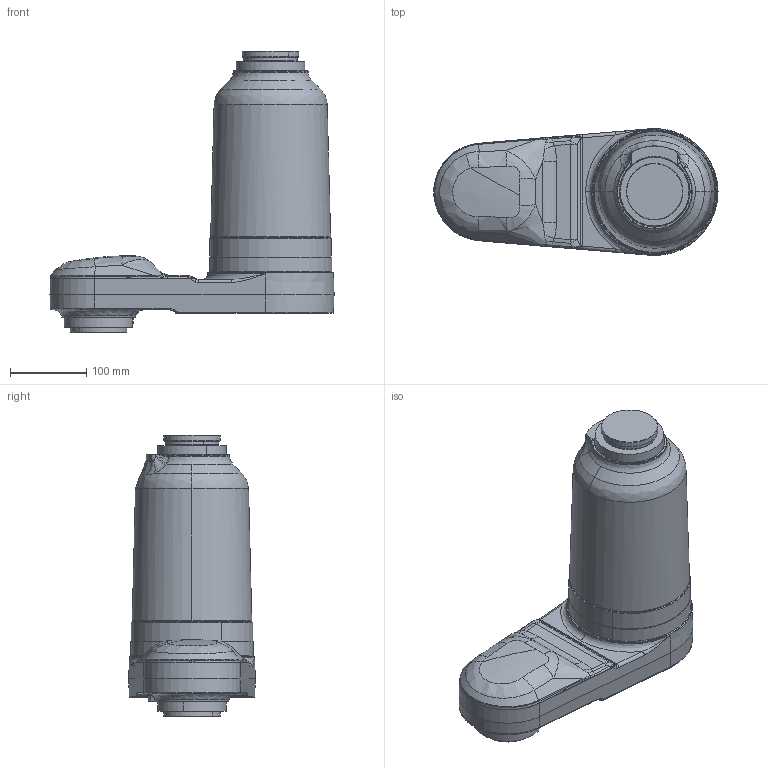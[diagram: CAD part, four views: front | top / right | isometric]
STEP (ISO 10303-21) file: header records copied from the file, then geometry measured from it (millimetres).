
FILE_DESCRIPTION(('CATIA V5 STEP Exchange'),'2;1');
FILE_NAME('Z:\Data1\ROBOT\CATIA06\products\EZ\EZ03-4525-02\Assy\Lightmodel\STEP\EZ03V-4525_J2.stp','2016-03-04T04:22:50+00:00',('none'),('none'),'Version 5-6 Release 2012','CATIA V5 STEP AP203','none');
FILE_SCHEMA(('CONFIG_CONTROL_DESIGN'));
Length unit declared in the file: millimetre
Products named in the file (1): J2_EZ03V-4525-02
Bounding box: 371.76 x 165.46 x 368 mm (x, y, z)
Volume: 7702095 mm3; surface area: 398125 mm2
Topology: 3 solids, 3 shells, 271 faces, 648 edges, 387 vertices
Faces by surface type: bspline 78, revolution 67, plane 64, cylinder 62
Entity records: 15593 total; most frequent: CARTESIAN_POINT 10165, ORIENTED_EDGE 1278, DIRECTION 691, EDGE_CURVE 639, VERTEX_POINT 387, B_SPLINE_CURVE_WITH_KNOTS 334, AXIS2_PLACEMENT_3D 316, EDGE_LOOP 284
